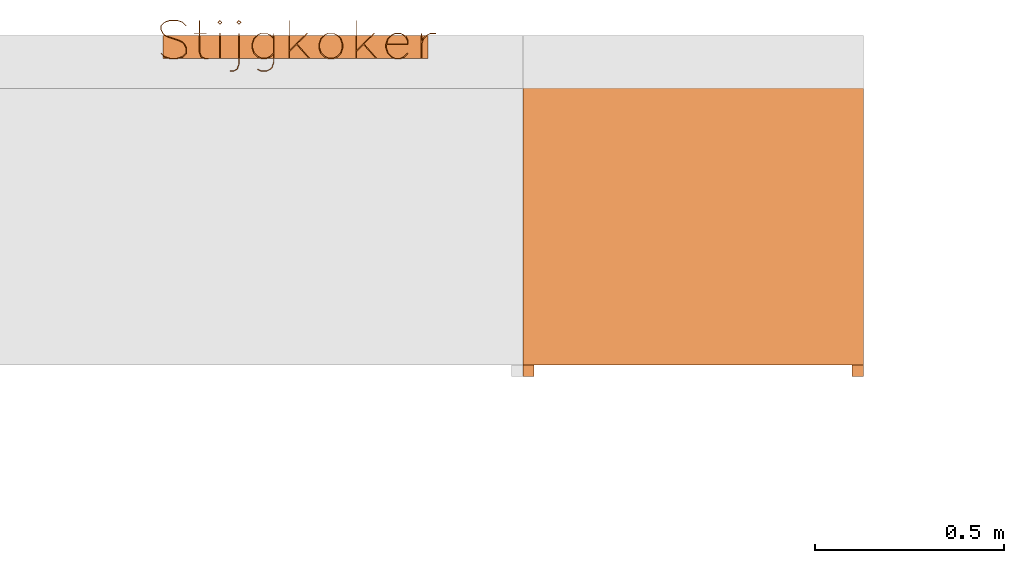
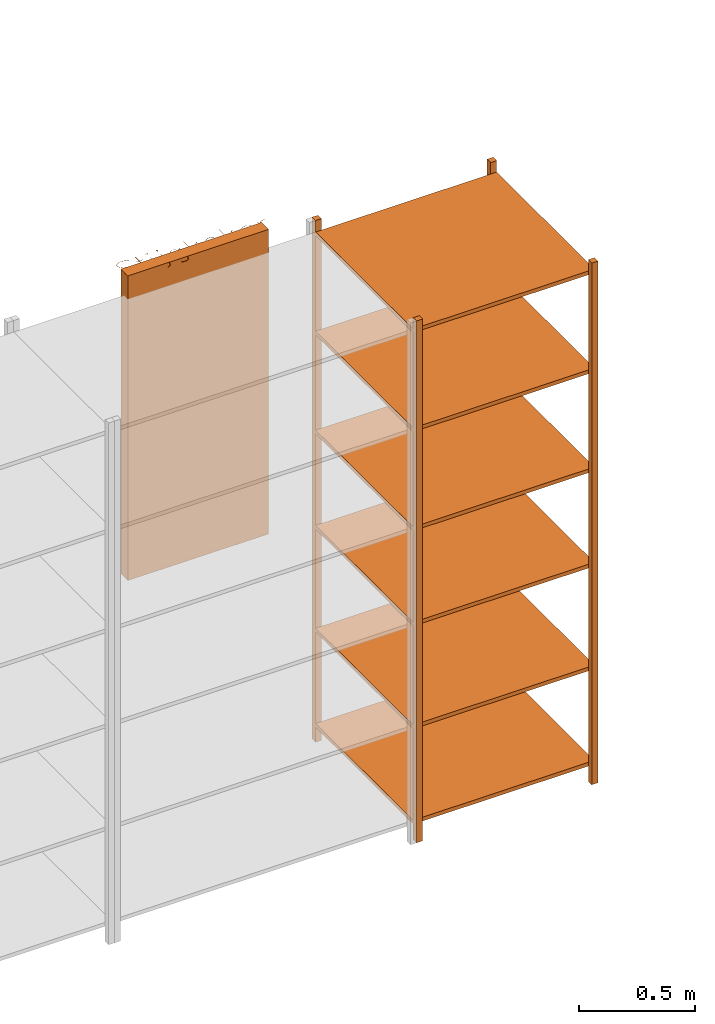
# One storey, part 15 of 32: 2 proxies.
"""IFC2X3 building model written with IfcOpenShell, lengths in metres."""

from ifc_helpers import new_model, entity, si_unit, converted_unit, derived_unit, direction, frame, frame_2d, origin, origin_2d_with_axis, place, context, subcontext, project, spatial, rectangle, extrude, face_set, surface_model, source, transform, mapped, material, material_list, type_object, type_shapes, element, save


model = new_model("IFC2X3")

# Units and contexts
model_context = context("Model", 3, precision=1e-05, world=origin(), true_north=direction((6.12303176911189e-17, 1.0)))
body_context = subcontext(model_context, "Body", "Model", "MODEL_VIEW")
ifc_project = project(units=[si_unit("LENGTHUNIT", "METRE"), si_unit("AREAUNIT", "SQUARE_METRE"), si_unit("VOLUMEUNIT", "CUBIC_METRE"), converted_unit("PLANEANGLEUNIT", "DEGREE", entity("IfcRatioMeasure", 0.0174532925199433), si_unit("PLANEANGLEUNIT", "RADIAN"), dimensions=[0, 0, 0, 0, 0, 0, 0]), si_unit("MASSUNIT", "GRAM", prefix="KILO"), derived_unit("MASSDENSITYUNIT", [(si_unit("MASSUNIT", "GRAM", prefix="KILO"), 1), (si_unit("LENGTHUNIT", "METRE"), -3)]), derived_unit("MOMENTOFINERTIAUNIT", [(si_unit("LENGTHUNIT", "METRE"), 4)]), si_unit("TIMEUNIT", "SECOND"), si_unit("FREQUENCYUNIT", "HERTZ"), si_unit("THERMODYNAMICTEMPERATUREUNIT", "DEGREE_CELSIUS"), derived_unit("THERMALTRANSMITTANCEUNIT", [(si_unit("MASSUNIT", "GRAM", prefix="KILO"), 1), (si_unit("THERMODYNAMICTEMPERATUREUNIT", "KELVIN"), -1), (si_unit("TIMEUNIT", "SECOND"), -3)]), derived_unit("VOLUMETRICFLOWRATEUNIT", [(si_unit("LENGTHUNIT", "METRE"), 3), (si_unit("TIMEUNIT", "SECOND"), -1)]), si_unit("ELECTRICCURRENTUNIT", "AMPERE"), si_unit("ELECTRICVOLTAGEUNIT", "VOLT"), si_unit("POWERUNIT", "WATT"), si_unit("FORCEUNIT", "NEWTON", prefix="KILO"), si_unit("ILLUMINANCEUNIT", "LUX"), si_unit("LUMINOUSFLUXUNIT", "LUMEN"), si_unit("LUMINOUSINTENSITYUNIT", "CANDELA"), derived_unit("USERDEFINED", [(si_unit("MASSUNIT", "GRAM", prefix="KILO"), -1), (si_unit("LENGTHUNIT", "METRE"), -2), (si_unit("TIMEUNIT", "SECOND"), 3), (si_unit("LUMINOUSFLUXUNIT", "LUMEN"), 1)]), derived_unit("LINEARVELOCITYUNIT", [(si_unit("LENGTHUNIT", "METRE"), 1), (si_unit("TIMEUNIT", "SECOND"), -1)]), si_unit("PRESSUREUNIT", "PASCAL"), derived_unit("USERDEFINED", [(si_unit("LENGTHUNIT", "METRE"), -2), (si_unit("MASSUNIT", "GRAM", prefix="KILO"), 1), (si_unit("TIMEUNIT", "SECOND"), -2)]), derived_unit("LINEARFORCEUNIT", [(si_unit("MASSUNIT", "GRAM", prefix="KILO"), 1), (si_unit("LENGTHUNIT", "METRE"), 1), (si_unit("TIMEUNIT", "SECOND"), -2), (si_unit("LENGTHUNIT", "METRE"), -1)]), derived_unit("PLANARFORCEUNIT", [(si_unit("MASSUNIT", "GRAM", prefix="KILO"), 1), (si_unit("LENGTHUNIT", "METRE"), 1), (si_unit("TIMEUNIT", "SECOND"), -2), (si_unit("LENGTHUNIT", "METRE"), -2)])], contexts=[model_context])

# Site, building, storey
site_placement = place(None, origin())
site = spatial("IfcSite", under=ifc_project, at=site_placement, Name="Default", CompositionType="ELEMENT")
building_placement = place(site_placement, origin())
building = spatial("IfcBuilding", under=site, at=building_placement, CompositionType="ELEMENT")
storey_placement = place(building_placement, origin())
storey = spatial("IfcBuildingStorey", under=building, at=storey_placement, Name="00 EG", CompositionType="ELEMENT", Elevation=0.0)

# Proxies
ifc_material_1 = material(Name="Aluminium")
ifc_material_2 = material(Name="UHMW, schwarz")
ifc_material_list_1 = material_list([ifc_material_1, ifc_material_2])
ifc_material_list_2 = material_list([ifc_material_2, ifc_material_1])
building_element_proxy_type_1 = type_object("IfcBuildingElementProxyType", Name="dh_Stahlregal:Stahlregal-FB6-90", PredefinedType="NOTDEFINED", material=ifc_material_list_2)
shared_shape_1 = source(origin(), body_context, "Body", "SweptSolid", [
    extrude(rectangle(XDim=0.840000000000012, YDim=0.9, at=origin_2d_with_axis()), frame((0.0, -0.450000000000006, 0.0800000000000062), z_axis=(0.0, 0.0, 1.0), x_axis=(0.0, 1.0, 0.0)), (0.0, 0.0, 1.0), 0.0199999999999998),
    extrude(rectangle(XDim=0.840000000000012, YDim=0.9, at=origin_2d_with_axis()), frame((0.0, -0.450000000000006, 0.579999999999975), z_axis=(0.0, 0.0, 1.0), x_axis=(0.0, 1.0, 0.0)), (0.0, 0.0, 1.0), 0.019999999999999),
    extrude(rectangle(XDim=0.840000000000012, YDim=0.9, at=origin_2d_with_axis()), frame((0.0, -0.450000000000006, 1.11999999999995), z_axis=(0.0, 0.0, 1.0), x_axis=(0.0, 1.0, 0.0)), (0.0, 0.0, 1.0), 0.019999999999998),
    extrude(rectangle(XDim=0.840000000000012, YDim=0.9, at=origin_2d_with_axis()), frame((0.0, -0.450000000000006, 1.61999999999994), z_axis=(0.0, 0.0, 1.0), x_axis=(0.0, 1.0, 0.0)), (0.0, 0.0, 1.0), 0.0199999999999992),
    extrude(rectangle(XDim=0.840000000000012, YDim=0.9, at=origin_2d_with_axis()), frame((0.0, -0.450000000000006, 2.13999999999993), z_axis=(0.0, 0.0, 1.0), x_axis=(0.0, 1.0, 0.0)), (0.0, 0.0, 1.0), 0.0200000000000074),
    extrude(rectangle(XDim=0.840000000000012, YDim=0.9, at=origin_2d_with_axis()), frame((0.0, -0.450000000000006, 2.65999999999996), z_axis=(0.0, 0.0, 1.0), x_axis=(0.0, 1.0, 0.0)), (0.0, 0.0, 1.0), 0.019999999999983),
    extrude(rectangle(XDim=0.0299999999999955, YDim=0.0300000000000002, at=origin_2d_with_axis()), frame((-0.435000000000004, -0.885000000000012, 2.735)), (0.0, 0.0, 1.0), 0.00500000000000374),
    extrude(rectangle(XDim=0.0300000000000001, YDim=0.0300000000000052, at=origin_2d_with_axis()), frame((0.434999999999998, -0.015, 2.735), z_axis=(0.0, 0.0, 1.0), x_axis=(0.0, 1.0, 0.0)), (0.0, 0.0, 1.0), 0.00500000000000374),
    extrude(rectangle(XDim=0.0299999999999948, YDim=0.03, at=origin_2d_with_axis()), frame((-0.435000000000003, -0.015, 2.735)), (0.0, 0.0, 1.0), 0.00500000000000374),
    extrude(rectangle(XDim=0.0300000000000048, YDim=0.0300000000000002, at=origin_2d_with_axis()), frame((0.434999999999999, -0.885000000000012, 2.735)), (0.0, 0.0, 1.0), 0.00500000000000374),
    extrude(rectangle(XDim=0.03, YDim=0.0299999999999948, at=origin_2d_with_axis()), frame((-0.435000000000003, -0.015, 0.00499999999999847), z_axis=(0.0, 0.0, 1.0), x_axis=(0.0, -1.0, 0.0)), (0.0, 0.0, 1.0), 2.73),
    extrude(rectangle(XDim=0.0299999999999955, YDim=0.0300000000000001, at=frame_2d((0.0, -6.76542155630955e-17), x_axis=(1.0, 0.0))), frame((-0.435000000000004, -0.885000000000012, 0.00499999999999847)), (0.0, 0.0, 1.0), 2.73),
    extrude(rectangle(XDim=0.0300000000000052, YDim=0.0300000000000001, at=origin_2d_with_axis()), frame((0.434999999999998, -0.015, 0.00499999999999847)), (0.0, 0.0, 1.0), 2.73),
    extrude(rectangle(XDim=0.0300000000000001, YDim=0.0300000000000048, at=frame_2d((-6.76542155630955e-17, 0.0), x_axis=(1.0, 0.0))), frame((0.434999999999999, -0.885000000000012, 0.00499999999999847), z_axis=(0.0, 0.0, 1.0), x_axis=(0.0, 1.0, 0.0)), (0.0, 0.0, 1.0), 2.73),
    extrude(rectangle(XDim=0.0300000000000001, YDim=0.0300000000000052, at=frame_2d((0.0, -6.76542155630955e-17), x_axis=(1.0, 0.0))), frame((0.434999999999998, -0.015, 0.0), z_axis=(0.0, 0.0, 1.0), x_axis=(0.0, -1.0, 0.0)), (0.0, 0.0, 1.0), 0.005),
    extrude(rectangle(XDim=0.0299999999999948, YDim=0.03, at=origin_2d_with_axis()), frame((-0.435000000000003, -0.015, 0.0), z_axis=(0.0, 0.0, 1.0), x_axis=(-1.0, 0.0, 0.0)), (0.0, 0.0, 1.0), 0.005),
    extrude(rectangle(XDim=0.0299999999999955, YDim=0.0300000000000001, at=frame_2d((6.76542155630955e-17, 6.76542155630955e-17), x_axis=(1.0, 0.0))), frame((-0.435000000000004, -0.885000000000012, 0.0), z_axis=(0.0, 0.0, 1.0), x_axis=(-1.0, 0.0, 0.0)), (0.0, 0.0, 1.0), 0.005),
    extrude(rectangle(XDim=0.0300000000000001, YDim=0.0300000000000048, at=frame_2d((6.76542155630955e-17, 0.0), x_axis=(1.0, 0.0))), frame((0.434999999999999, -0.885000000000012, 0.0), z_axis=(0.0, 0.0, 1.0), x_axis=(0.0, -1.0, 0.0)), (0.0, 0.0, 1.0), 0.005),
])
type_shapes(building_element_proxy_type_1, [shared_shape_1])
proxy_1_placement = place(storey_placement, frame((16.6000000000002, 24.244, 0.0)))
element("IfcBuildingElementProxy", 1, at=proxy_1_placement, inside=storey, type_object=building_element_proxy_type_1, material=ifc_material_list_1, Name="dh_Stahlregal:Stahlregal-FB6-90", ObjectType="dh_Stahlregal:Stahlregal-FB6-90", context=body_context, shape_type="MappedRepresentation", body=[
    mapped(shared_shape_1, transform((0.0, 0.0, 0.0), scale=1.0)),
])
ifc_material_3 = material(Name="dh_Stellfläche")
building_element_proxy_type_2 = type_object("IfcBuildingElementProxyType", Name="dh_Gerät_Stellfläche Bestand:Nutzergerät", PredefinedType="NOTDEFINED", material=ifc_material_3)
shared_shape_2 = source(origin(), body_context, "Body", "SurfaceModel", [
    surface_model("IfcFaceBasedSurfaceModel", [(-0.355113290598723, -0.0453817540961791, 1.605), (-0.356700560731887, -0.0470458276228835, 1.605), (-0.346946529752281, -0.0567998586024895, 1.605), (-0.332277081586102, -0.0616384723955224, 1.605), (-0.31294822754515, -0.0616384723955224, 1.605), (-0.298278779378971, -0.0567998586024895, 1.605), (-0.288166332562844, -0.0466618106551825, 1.605), (-0.288166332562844, -0.0314547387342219, 1.605), (-0.293081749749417, -0.0214446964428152, 1.605), (-0.298073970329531, -0.0163500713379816, 1.605), (-0.307904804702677, -0.0115114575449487, 1.605), (-0.336450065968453, -0.00188543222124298, 1.605), (-0.345692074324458, 0.00295318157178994, 1.605), (-0.35019787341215, 0.00745898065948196, 1.605), (-0.354857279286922, 0.0166497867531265, 1.605), (-0.354857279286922, 0.0255845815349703, 1.605), (-0.345820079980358, 0.0347241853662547, 1.605), (-0.331944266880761, 0.0393579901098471, 1.605), (-0.313204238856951, 0.0393579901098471, 1.605), (-0.299328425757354, 0.0347241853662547, 1.605), (-0.290112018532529, 0.0252005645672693, 1.605), (-0.288447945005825, 0.0268646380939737, 1.605), (-0.298278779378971, 0.0366186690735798, 1.605), (-0.31294822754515, 0.041585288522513, 1.605), (-0.332277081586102, 0.041585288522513, 1.605), (-0.346946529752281, 0.0366186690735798, 1.605), (-0.356982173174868, 0.0264550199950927, 1.605), (-0.356982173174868, 0.016112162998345, 1.605), (-0.352117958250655, 0.00610212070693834, 1.605), (-0.347074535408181, 0.00100749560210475, 1.605), (-0.337243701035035, -0.00383111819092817, 1.605), (-0.308698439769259, -0.0134571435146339, 1.605), (-0.299456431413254, -0.0182957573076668, 1.605), (-0.294950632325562, -0.0228015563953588, 1.605), (-0.29036802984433, -0.0320691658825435, 1.605), (-0.29036802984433, -0.0457657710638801, 1.605), (-0.299328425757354, -0.0549053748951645, 1.605), (-0.313204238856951, -0.0595647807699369, 1.605), (-0.331944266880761, -0.0595647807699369, 1.605), (-0.345820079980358, -0.0549053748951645, 1.605), (-0.230691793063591, -0.0616384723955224, 1.605), (-0.230691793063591, -0.0595647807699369, 1.605), (-0.239908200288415, -0.0595647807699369, 1.605), (-0.248740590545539, -0.055084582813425, 1.605), (-0.253399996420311, -0.0413879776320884, 1.605), (-0.253399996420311, 0.00533408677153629, 1.605), (-0.235402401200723, 0.00533408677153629, 1.605), (-0.235402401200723, 0.00745898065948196, 1.605), (-0.253399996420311, 0.00745898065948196, 1.605), (-0.253399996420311, 0.0399468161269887, 1.605), (-0.255576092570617, 0.0399468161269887, 1.605), (-0.255576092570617, 0.00745898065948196, 1.605), (-0.268735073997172, 0.00745898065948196, 1.605), (-0.268735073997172, 0.00533408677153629, 1.605), (-0.255576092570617, 0.00533408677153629, 1.605), (-0.255576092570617, -0.0416439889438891, 1.605), (-0.250660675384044, -0.0566974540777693, 1.605), (-0.240445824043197, -0.0616384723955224, 1.605), (-0.201327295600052, -0.0599999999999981, 1.605), (-0.199202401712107, -0.0599999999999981, 1.605), (-0.199202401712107, 0.00666534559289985, 1.605), (-0.201327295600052, 0.00666534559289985, 1.605), (-0.173294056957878, -0.0922318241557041, 1.605), (-0.173294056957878, -0.0944079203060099, 1.605), (-0.163744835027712, -0.0944079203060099, 1.605), (-0.153581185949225, -0.0893644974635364, 1.605), (-0.148665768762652, -0.0744390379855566, 1.605), (-0.148665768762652, 0.00651173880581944, 1.605), (-0.150867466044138, 0.00651173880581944, 1.605), (-0.150867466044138, -0.0741574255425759, 1.605), (-0.15550127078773, -0.087700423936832, 1.605), (-0.164333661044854, -0.0922318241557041, 1.605), (-0.100049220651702, -0.0875980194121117, 1.605), (-0.101175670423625, -0.0895181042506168, 1.605), (-0.0913448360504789, -0.0944079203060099, 1.605), (-0.0765473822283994, -0.0944079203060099, 1.605), (-0.066639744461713, -0.0895181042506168, 1.605), (-0.0615963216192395, -0.0843466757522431, 1.605), (-0.0566809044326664, -0.069728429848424, 1.605), (-0.0566809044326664, 0.00615332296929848, 1.605), (-0.0588826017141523, 0.00615332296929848, 1.605), (-0.0588826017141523, -0.00552079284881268, 1.605), (-0.066639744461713, 0.0023387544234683, 1.605), (-0.0765473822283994, 0.00717736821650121, 1.605), (-0.0913448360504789, 0.00717736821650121, 1.605), (-0.101303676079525, 0.0023387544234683, 1.605), (-0.111057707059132, -0.00756888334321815, 1.605), (-0.115973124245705, -0.0221871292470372, 1.605), (-0.115973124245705, -0.0319923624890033, 1.605), (-0.111057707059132, -0.0465850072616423, 1.605), (-0.101303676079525, -0.0564926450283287, 1.605), (-0.0913448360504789, -0.0612544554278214, 1.605), (-0.0765473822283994, -0.0612544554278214, 1.605), (-0.066639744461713, -0.0564926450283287, 1.605), (-0.0588826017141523, -0.0485818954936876, 1.605), (-0.0588826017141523, -0.0694724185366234, 1.605), (-0.0634652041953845, -0.0832970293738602, 1.605), (-0.0679710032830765, -0.0875980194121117, 1.605), (-0.0770594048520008, -0.0922318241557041, 1.605), (-0.0908072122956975, -0.0922318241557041, 1.605), (-0.0588826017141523, -0.0452537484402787, 1.605), (-0.0679710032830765, -0.0542909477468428, 1.605), (-0.0770594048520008, -0.0588735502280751, 1.605), (-0.0908072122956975, -0.0588735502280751, 1.605), (-0.0999212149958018, -0.0542909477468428, 1.605), (-0.109214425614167, -0.0451257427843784, 1.605), (-0.113797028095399, -0.0312499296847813, 1.605), (-0.113797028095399, -0.0220079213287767, 1.605), (-0.109214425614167, -0.00813210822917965, 1.605), (-0.0999212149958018, 0.000956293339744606, 1.605), (-0.0908072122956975, 0.00561569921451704, 1.605), (-0.0770594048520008, 0.00561569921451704, 1.605), (-0.0679710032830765, 0.000956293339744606, 1.605), (-0.0588826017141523, -0.00800410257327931, 1.605), (-0.0178183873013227, -0.0599999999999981, 1.605), (-0.0156934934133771, -0.0599999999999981, 1.605), (-0.0156934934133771, -0.0413367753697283, 1.605), (0.00230410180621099, -0.0235439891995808, 1.605), (0.0347919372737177, -0.0599999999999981, 1.605), (0.0364560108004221, -0.0587455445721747, 1.605), (0.0037633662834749, -0.0214958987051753, 1.605), (0.0316685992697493, 0.00625572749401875, 1.605), (0.0300813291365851, 0.00784299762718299, 1.605), (-0.0156934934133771, -0.0379574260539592, 1.605), (-0.0156934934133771, 0.0399468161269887, 1.605), (-0.0178183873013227, 0.0399468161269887, 1.605), (0.120146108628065, -0.0469178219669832, 1.605), (0.125061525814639, -0.0322227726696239, 1.605), (0.125061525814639, -0.0223663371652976, 1.605), (0.120146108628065, -0.00767128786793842, 1.605), (0.110315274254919, 0.00231315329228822, 1.605), (0.100407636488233, 0.00717736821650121, 1.605), (0.0856101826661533, 0.00717736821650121, 1.605), (0.0756513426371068, 0.00231315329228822, 1.605), (0.0658973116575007, -0.00767128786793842, 1.605), (0.0609818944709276, -0.0223663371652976, 1.605), (0.0609818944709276, -0.0322227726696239, 1.605), (0.0658973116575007, -0.0469178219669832, 1.605), (0.0756513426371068, -0.0568510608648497, 1.605), (0.0856101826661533, -0.0616384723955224, 1.605), (0.100407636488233, -0.0616384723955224, 1.605), (0.110315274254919, -0.0568510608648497, 1.605), (0.11820042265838, -0.0451257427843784, 1.605), (0.108984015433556, -0.0542909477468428, 1.605), (0.0998956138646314, -0.0588735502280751, 1.605), (0.0861478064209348, -0.0588735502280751, 1.605), (0.0770338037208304, -0.0542909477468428, 1.605), (0.0677405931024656, -0.0451257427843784, 1.605), (0.0631579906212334, -0.0312499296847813, 1.605), (0.0631579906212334, -0.0220079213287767, 1.605), (0.0677405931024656, -0.00813210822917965, 1.605), (0.0770338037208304, 0.000956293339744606, 1.605), (0.0861478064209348, 0.00561569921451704, 1.605), (0.0998956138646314, 0.00561569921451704, 1.605), (0.108984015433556, 0.000956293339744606, 1.605), (0.11820042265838, -0.00813210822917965, 1.605), (0.122859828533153, -0.0220079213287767, 1.605), (0.122859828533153, -0.0312499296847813, 1.605), (0.15913663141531, -0.0599999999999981, 1.605), (0.161261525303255, -0.0599999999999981, 1.605), (0.161261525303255, -0.0413367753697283, 1.605), (0.179259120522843, -0.0235439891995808, 1.605), (0.21174695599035, -0.0599999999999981, 1.605), (0.213411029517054, -0.0587455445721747, 1.605), (0.180718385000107, -0.0214958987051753, 1.605), (0.208623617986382, 0.00625572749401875, 1.605), (0.207036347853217, 0.00784299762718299, 1.605), (0.161261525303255, -0.0379574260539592, 1.605), (0.161261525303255, 0.0399468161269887, 1.605), (0.15913663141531, 0.0399468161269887, 1.605), (0.296973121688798, -0.0471994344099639, 1.605), (0.295309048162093, -0.0455353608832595, 1.605), (0.285939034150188, -0.0549821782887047, 1.605), (0.276850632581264, -0.0595647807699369, 1.605), (0.263102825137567, -0.0595647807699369, 1.605), (0.253988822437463, -0.0549821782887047, 1.605), (0.244695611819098, -0.0457913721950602, 1.605), (0.240113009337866, -0.0318899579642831, 1.605), (0.240113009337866, -0.0236463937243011, 1.605), (0.297229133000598, -0.0236463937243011, 1.605), (0.297229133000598, -0.0127147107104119, 1.605), (0.292313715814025, -0.00273026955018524, 1.605), (0.287270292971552, 0.00231315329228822, 1.605), (0.277362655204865, 0.00717736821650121, 1.605), (0.262565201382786, 0.00717736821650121, 1.605), (0.252606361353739, 0.00231315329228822, 1.605), (0.242852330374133, -0.00767128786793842, 1.605), (0.23793691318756, -0.0223663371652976, 1.605), (0.23793691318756, -0.0322227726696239, 1.605), (0.242852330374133, -0.0469178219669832, 1.605), (0.252606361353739, -0.0568510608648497, 1.605), (0.262565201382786, -0.0616384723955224, 1.605), (0.277362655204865, -0.0616384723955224, 1.605), (0.287270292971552, -0.0568510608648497, 1.605), (0.240522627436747, -0.0214446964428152, 1.605), (0.244695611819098, -0.00874653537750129, 1.605), (0.253988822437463, 0.000341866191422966, 1.605), (0.263102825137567, 0.0050012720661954, 1.605), (0.276850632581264, 0.0050012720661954, 1.605), (0.285939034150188, 0.000341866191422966, 1.605), (0.29044483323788, -0.00416393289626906, 1.605), (0.295027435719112, -0.0132779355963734, 1.605), (0.295027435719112, -0.0214446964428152, 1.605), (0.331176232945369, -0.0599999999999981, 1.605), (0.333301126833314, -0.0599999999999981, 1.605), (0.333301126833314, -0.0223407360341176, 1.605), (0.337960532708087, -0.00856732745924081, 1.605), (0.347202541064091, 0.000469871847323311, 1.605), (0.356342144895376, 0.00507807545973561, 1.605), (0.370371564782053, 0.00507807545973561, 1.605), (0.370371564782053, 0.00717736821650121, 1.605), (0.355753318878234, 0.00717736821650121, 1.605), (0.345871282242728, 0.00236435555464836, 1.605), (0.336040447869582, -0.00751768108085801, 1.605), (0.333301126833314, -0.0156076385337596, 1.605), (0.333301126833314, 0.00630692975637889, 1.605), (0.331176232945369, 0.00630692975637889, 1.605), (-0.149792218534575, 0.0291175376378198, 1.605), (-0.143494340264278, 0.0353386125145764, 1.605), (-0.149792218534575, 0.041585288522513, 1.605), (-0.156038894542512, 0.0353386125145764, 1.605), (-0.149792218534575, 0.0319592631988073, 1.605), (-0.153043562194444, 0.035210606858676, 1.605), (-0.149792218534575, 0.0384875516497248, 1.605), (-0.146464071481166, 0.035210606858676, 1.605), (-0.20025204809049, 0.0291175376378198, 1.605), (-0.194005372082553, 0.0353386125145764, 1.605), (-0.20025204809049, 0.041585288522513, 1.605), (-0.206498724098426, 0.0353386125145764, 1.605), (-0.20025204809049, 0.0319592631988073, 1.605), (-0.203503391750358, 0.035210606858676, 1.605), (-0.20025204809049, 0.0384875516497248, 1.605), (-0.197000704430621, 0.035210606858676, 1.605), (0.35, 0.0, 1.6), (0.35, -0.06, 1.6), (-0.35, -0.06, 1.6), (-0.35, 0.0, 1.6), (0.35, 0.0, 0.0), (0.35, -0.06, 0.0), (-0.35, -0.06, 0.0), (-0.35, 0.0, 0.0)], [face_set([[[0, 1, 2, 3, 4, 5, 6, 7, 8, 9, 10, 11, 12, 13, 14, 15, 16, 17, 18, 19, 20, 21, 22, 23, 24, 25, 26, 27, 28, 29, 30, 31, 32, 33, 34, 35, 36, 37, 38, 39]]]), face_set([[[40, 41, 42, 43, 44, 45, 46, 47, 48, 49, 50, 51, 52, 53, 54, 55, 56, 57]]]), face_set([[[58, 59, 60, 61]]]), face_set([[[62, 63, 64, 65, 66, 67, 68, 69, 70, 71]]]), face_set([[[72, 73, 74, 75, 76, 77, 78, 79, 80, 81, 82, 83, 84, 85, 86, 87, 88, 89, 90, 91, 92, 93, 94, 95, 96, 97, 98, 99], [100, 101, 102, 103, 104, 105, 106, 107, 108, 109, 110, 111, 112, 113]]]), face_set([[[114, 115, 116, 117, 118, 119, 120, 121, 122, 123, 124, 125]]]), face_set([[[126, 127, 128, 129, 130, 131, 132, 133, 134, 135, 136, 137, 138, 139, 140, 141], [142, 143, 144, 145, 146, 147, 148, 149, 150, 151, 152, 153, 154, 155, 156, 157]]]), face_set([[[158, 159, 160, 161, 162, 163, 164, 165, 166, 167, 168, 169]]]), face_set([[[170, 171, 172, 173, 174, 175, 176, 177, 178, 179, 180, 181, 182, 183, 184, 185, 186, 187, 188, 189, 190, 191, 192, 193], [194, 195, 196, 197, 198, 199, 200, 201, 202]]]), face_set([[[203, 204, 205, 206, 207, 208, 209, 210, 211, 212, 213, 214, 215, 216]]]), face_set([[[217, 218, 219, 220], [221, 222, 223, 224]]]), face_set([[[225, 226, 227, 228], [229, 230, 231, 232]]]), face_set([[[233, 234, 235, 236]], [[237, 238, 239, 240]], [[236, 233, 237, 240]], [[235, 236, 240, 239]], [[234, 238, 239, 235]], [[233, 234, 238, 237]]])]),
])
type_shapes(building_element_proxy_type_2, [shared_shape_2])
proxy_2_placement = place(storey_placement, frame((15.5499999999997, 24.244, 1.2)))
element("IfcBuildingElementProxy", 2, at=proxy_2_placement, inside=storey, type_object=building_element_proxy_type_2, material=ifc_material_3, Name="dh_Gerät_Stellfläche Bestand:Nutzergerät", ObjectType="dh_Gerät_Stellfläche Bestand:Nutzergerät", context=body_context, shape_type="MappedRepresentation", body=[
    mapped(shared_shape_2, transform((0.0, 0.0, 0.0), scale=1.0)),
])

save(model, "model.ifc")
